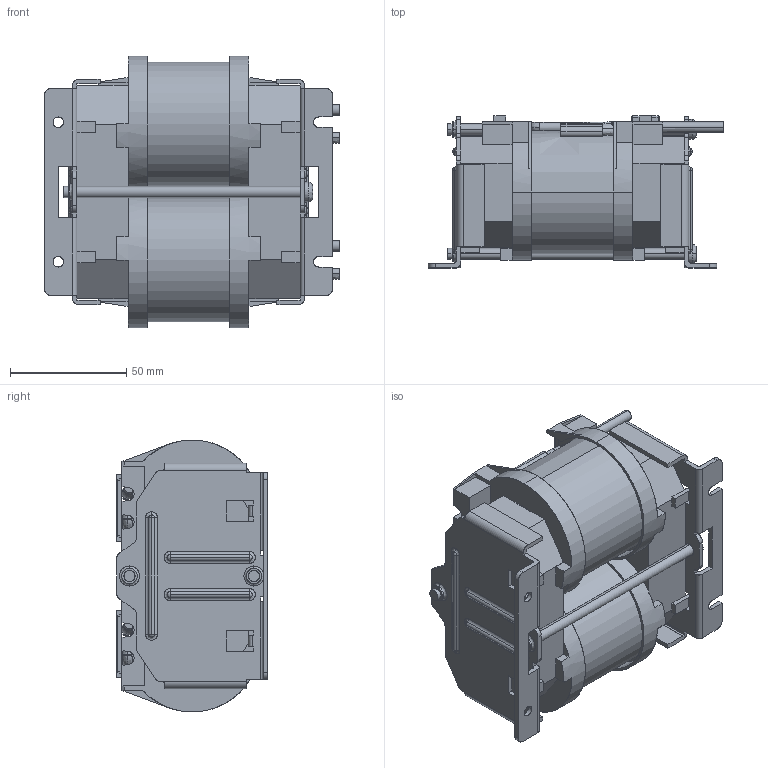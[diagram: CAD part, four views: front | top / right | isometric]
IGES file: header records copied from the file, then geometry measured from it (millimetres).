
Start section: SolidWorks IGES file using analytic representation for surfaces
Global section: file name: \\10.106.230.1\r&d file\05_COMP\02_Mechanical\10_Others\PV_RT 81\网络用3D模型\卧式模型\网络用模型\SF13231B-GH00DS20R(H-5KW_ACL-G).IGS,15HSolidWorks; native system: 2009; preprocessor: SolidWorks 2009; author: test; date: 120508.151519; units: millimetre
Bounding box: 127 x 65.25 x 116.9 mm (x, y, z)
Surface area: 123082.6 mm2 (no closed solid volume)
Topology: 0 solids, 0 shells, 879 faces, 10223 edges, 10200 vertices
Faces by surface type: bspline 567, revolution 312
